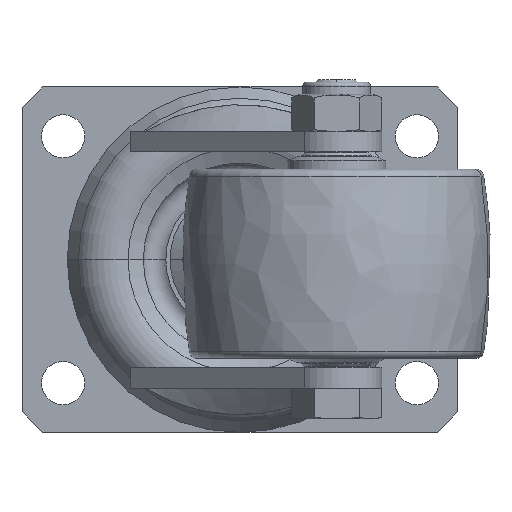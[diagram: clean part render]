
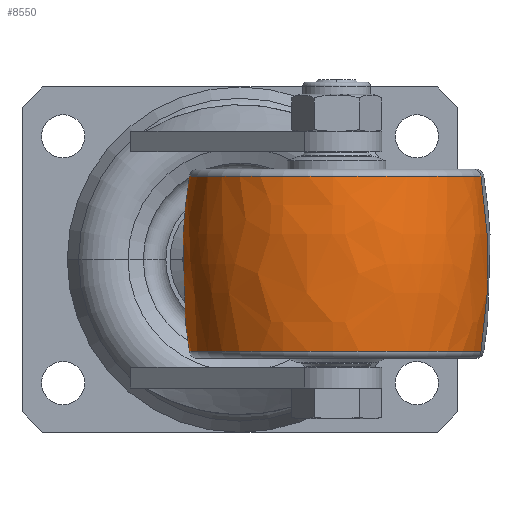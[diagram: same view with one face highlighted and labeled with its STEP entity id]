
A CAD part, front view. The second image highlights one B-rep face of the part: STEP entity #8550.
In plain terms, the highlighted free-form (B-spline) face has degree [3, 3] with [7, 4] control points.
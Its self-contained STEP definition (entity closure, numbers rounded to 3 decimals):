
#7547=CARTESIAN_POINT('',(-38.018,8.506,0.));
#7548=DIRECTION('',(0.,-1.,0.));
#7549=DIRECTION('',(-1.,0.,0.));
#7550=AXIS2_PLACEMENT_3D('',#7547,#7548,#7549);
#7567=CARTESIAN_POINT('',(57.732,29.826,0.));
#7568=DIRECTION('',(0.,0.,1.));
#7569=DIRECTION('',(-0.987,0.16,0.));
#7570=AXIS2_PLACEMENT_3D('',#7567,#7568,#7569);
#7577=CARTESIAN_POINT('',(-133.768,29.826,
0.));
#7578=DIRECTION('',(0.,0.,-1.));
#7579=DIRECTION('',(0.987,0.16,0.));
#7580=AXIS2_PLACEMENT_3D('',#7577,#7578,#7579);
#7582=CARTESIAN_POINT('',(-38.018,51.146,0.));
#7583=DIRECTION('',(0.,-1.,0.));
#7584=DIRECTION('',(-1.,0.,0.));
#7585=AXIS2_PLACEMENT_3D('',#7582,#7583,#7584);
#7588=CARTESIAN_POINT('',(-73.801,51.146,0.));
#7590=VERTEX_POINT('',#7588);
#7591=CARTESIAN_POINT('',(-73.801,8.506,0.));
#7592=VERTEX_POINT('',#7591);
#7616=CARTESIAN_POINT('',(-2.235,51.146,
0.));
#7618=VERTEX_POINT('',#7616);
#7619=CARTESIAN_POINT('',(-2.235,8.506,
0.));
#7620=VERTEX_POINT('',#7619);
#8515=CARTESIAN_POINT('',(-73.591,51.991,2.238));
#8516=CARTESIAN_POINT('',(-76.067,37.284,2.394));
#8517=CARTESIAN_POINT('',(-76.067,22.369,2.394));
#8518=CARTESIAN_POINT('',(-73.591,7.661,2.238));
#8519=CARTESIAN_POINT('',(-74.969,51.991,
-19.654));
#8520=CARTESIAN_POINT('',(-77.541,37.284,
-21.022));
#8521=CARTESIAN_POINT('',(-77.541,22.369,
-21.022));
#8522=CARTESIAN_POINT('',(-74.969,7.661,
-19.654));
#8523=CARTESIAN_POINT('',(-59.953,51.991,
-35.644));
#8524=CARTESIAN_POINT('',(-61.48,37.284,
-38.125));
#8525=CARTESIAN_POINT('',(-61.48,22.369,
-38.125));
#8526=CARTESIAN_POINT('',(-59.953,7.661,
-35.644));
#8527=CARTESIAN_POINT('',(-38.018,51.991,
-35.644));
#8528=CARTESIAN_POINT('',(-38.018,37.284,
-38.125));
#8529=CARTESIAN_POINT('',(-38.018,22.369,
-38.125));
#8530=CARTESIAN_POINT('',(-38.018,7.661,
-35.644));
#8531=CARTESIAN_POINT('',(-16.083,51.991,
-35.644));
#8532=CARTESIAN_POINT('',(-14.556,37.284,
-38.125));
#8533=CARTESIAN_POINT('',(-14.556,22.369,
-38.125));
#8534=CARTESIAN_POINT('',(-16.083,7.661,
-35.644));
#8535=CARTESIAN_POINT('',(-1.067,51.991,
-19.654));
#8536=CARTESIAN_POINT('',(1.505,37.284,-21.022));
#8537=CARTESIAN_POINT('',(1.505,22.369,-21.022));
#8538=CARTESIAN_POINT('',(-1.067,7.661,
-19.654));
#8539=CARTESIAN_POINT('',(-2.445,51.991,2.238));
#8540=CARTESIAN_POINT('',(0.031,37.284,2.394));
#8541=CARTESIAN_POINT('',(0.031,22.369,2.394));
#8542=CARTESIAN_POINT('',(-2.445,7.661,2.238));
#8543=(BOUNDED_SURFACE()B_SPLINE_SURFACE(3,3,((#8515,#8516,#8517,#8518),(#8519,
#8520,#8521,#8522),(#8523,#8524,#8525,#8526),(#8527,#8528,#8529,#8530),(#8531,
#8532,#8533,#8534),(#8535,#8536,#8537,#8538),(#8539,#8540,#8541,#8542)),
.UNSPECIFIED.,.F.,.F.,.F.)B_SPLINE_SURFACE_WITH_KNOTS((4,3,4),(4,4),(0.,1.,
2.),(0.,1.),.UNSPECIFIED.)GEOMETRIC_REPRESENTATION_ITEM()RATIONAL_B_SPLINE_SURFACE(((1.196,1.184,1.184,1.196),(
0.944,0.935,0.935,0.944),(
0.944,0.935,0.935,0.944),(
1.196,1.184,1.184,1.196),(
0.944,0.935,0.935,0.944),(
0.944,0.935,0.935,0.944),(
1.196,1.184,1.184,1.196)))REPRESENTATION_ITEM('')SURFACE());
#8544=ORIENTED_EDGE('',*,*,#8506,.T.);
#8545=ORIENTED_EDGE('',*,*,#8459,.T.);
#8546=ORIENTED_EDGE('',*,*,#8509,.F.);
#8547=ORIENTED_EDGE('',*,*,#7722,.F.);
#8548=EDGE_LOOP('',(#8544,#8545,#8546,#8547));
#8549=FACE_OUTER_BOUND('',#8548,.F.);
#7551=CIRCLE('',#7550,35.783);
#7571=CIRCLE('',#7570,133.25);
#7581=CIRCLE('',#7580,133.25);
#7586=CIRCLE('',#7585,35.783);
#7722=EDGE_CURVE('',#7590,#7618,#7586,.T.);
#8459=EDGE_CURVE('',#7592,#7620,#7551,.T.);
#8506=EDGE_CURVE('',#7590,#7592,#7571,.T.);
#8509=EDGE_CURVE('',#7618,#7620,#7581,.T.);
#8550=ADVANCED_FACE('',(#8549),#8543,.T.);
